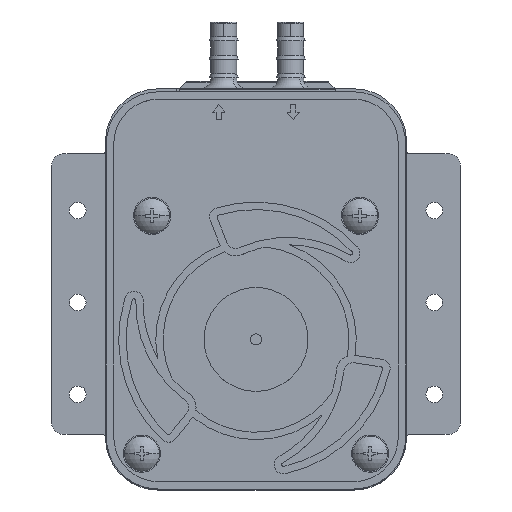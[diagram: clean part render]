
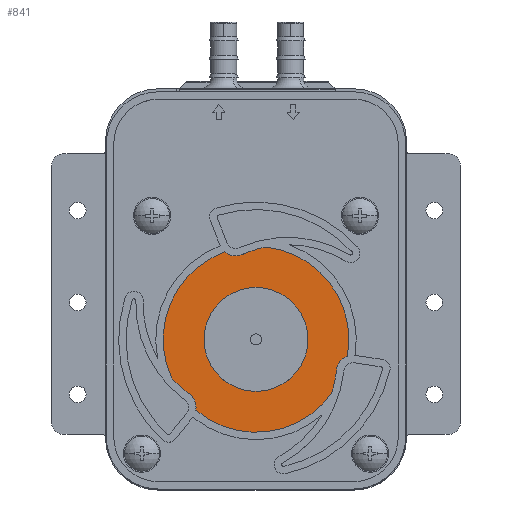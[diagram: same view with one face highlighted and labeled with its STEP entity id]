
A CAD part, top view. The second image highlights one B-rep face of the part: STEP entity #841.
In plain terms, the highlighted planar face has unit normal (0, 0, 1).
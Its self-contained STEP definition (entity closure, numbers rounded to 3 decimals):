
#24 = CARTESIAN_POINT ( 'NONE',  ( -3.667, 22.89, 2.5 ) ) ;
#452 = DIRECTION ( 'NONE',  ( 0., 0., -1. ) ) ;
#815 = ORIENTED_EDGE ( 'NONE', *, *, #14529, .T. ) ;
#841 = ADVANCED_FACE ( 'NONE', ( #4664, #19310 ), #19571, .T. ) ;
#975 = VERTEX_POINT ( 'NONE', #1214 ) ;
#1038 = ORIENTED_EDGE ( 'NONE', *, *, #11357, .F. ) ;
#1059 = CARTESIAN_POINT ( 'NONE',  ( 2.499, 24.875, 2.5 ) ) ;
#1214 = CARTESIAN_POINT ( 'NONE',  ( 24.584, -4.542, 2.5 ) ) ;
#1315 = EDGE_LOOP ( 'NONE', ( #14562, #18072, #5414, #815, #9471, #18938, #11153, #17866, #24906 ) ) ;
#1531 = CARTESIAN_POINT ( 'NONE',  ( -14., 0., 2.5 ) ) ;
#1588 = CIRCLE ( 'NONE', #8202, 30. ) ;
#1899 = CARTESIAN_POINT ( 'NONE',  ( 21.68, -8.291, 2.5 ) ) ;
#2722 = DIRECTION ( 'NONE',  ( 0., 0., 1. ) ) ;
#3004 = CARTESIAN_POINT ( 'NONE',  ( 0., 0., 2.5 ) ) ;
#3193 = CIRCLE ( 'NONE', #19083, 25. ) ;
#3244 = DIRECTION ( 'NONE',  ( 0.202, -0.979, 0. ) ) ;
#3787 = CARTESIAN_POINT ( 'NONE',  ( 0., 0., 2.5 ) ) ;
#3853 = EDGE_CURVE ( 'NONE', #17485, #11730, #24194, .T. ) ;
#4664 = FACE_OUTER_BOUND ( 'NONE', #1315, .T. ) ;
#4977 = DIRECTION ( 'NONE',  ( -0.983, 0.182, 0. ) ) ;
#5074 = AXIS2_PLACEMENT_3D ( 'NONE', #14415, #23974, #20135 ) ;
#5138 = AXIS2_PLACEMENT_3D ( 'NONE', #3004, #2722, #23841 ) ;
#5218 = AXIS2_PLACEMENT_3D ( 'NONE', #24951, #6558, #6816 ) ;
#5270 = CARTESIAN_POINT ( 'NONE',  ( -20.64, -18.294, 2.5 ) ) ;
#5414 = ORIENTED_EDGE ( 'NONE', *, *, #19760, .T. ) ;
#5612 = AXIS2_PLACEMENT_3D ( 'NONE', #5270, #18115, #13693 ) ;
#5712 = VERTEX_POINT ( 'NONE', #1899 ) ;
#6228 = DIRECTION ( 'NONE',  ( 0., 0., 1. ) ) ;
#6558 = DIRECTION ( 'NONE',  ( 0., 0., 1. ) ) ;
#6815 = VERTEX_POINT ( 'NONE', #1531 ) ;
#6816 = DIRECTION ( 'NONE',  ( -0.95, 0.312, 0. ) ) ;
#6850 = VERTEX_POINT ( 'NONE', #22791 ) ;
#7005 = CARTESIAN_POINT ( 'NONE',  ( 0., 13.2, 2.5 ) ) ;
#7406 = EDGE_CURVE ( 'NONE', #16866, #5712, #18003, .T. ) ;
#7919 = VERTEX_POINT ( 'NONE', #17015 ) ;
#8193 = CARTESIAN_POINT ( 'NONE',  ( 14., 0., 2.5 ) ) ;
#8202 = AXIS2_PLACEMENT_3D ( 'NONE', #16184, #24856, #9705 ) ;
#8310 = CARTESIAN_POINT ( 'NONE',  ( 8.553, -4.508, 2.5 ) ) ;
#9093 = EDGE_CURVE ( 'NONE', #975, #20606, #3193, .T. ) ;
#9143 = EDGE_CURVE ( 'NONE', #5712, #975, #12022, .T. ) ;
#9272 = CARTESIAN_POINT ( 'NONE',  ( 0., 0., 2.5 ) ) ;
#9471 = ORIENTED_EDGE ( 'NONE', *, *, #20521, .T. ) ;
#9705 = DIRECTION ( 'NONE',  ( 0.746, 0.666, 0. ) ) ;
#10038 = CARTESIAN_POINT ( 'NONE',  ( -5.5, 27., 2.5 ) ) ;
#10672 = VERTEX_POINT ( 'NONE', #8193 ) ;
#11153 = ORIENTED_EDGE ( 'NONE', *, *, #9143, .T. ) ;
#11357 = EDGE_CURVE ( 'NONE', #6815, #10672, #24448, .T. ) ;
#11414 = AXIS2_PLACEMENT_3D ( 'NONE', #8310, #6228, #3244 ) ;
#11730 = VERTEX_POINT ( 'NONE', #24745 ) ;
#12022 = CIRCLE ( 'NONE', #22164, 4.5 ) ;
#12193 = ORIENTED_EDGE ( 'NONE', *, *, #18164, .F. ) ;
#12243 = DIRECTION ( 'NONE',  ( -0.642, -0.767, 0. ) ) ;
#12306 = AXIS2_PLACEMENT_3D ( 'NONE', #10038, #18467, #12243 ) ;
#12342 = CARTESIAN_POINT ( 'NONE',  ( 20.348, -14.524, 2.5 ) ) ;
#13275 = DIRECTION ( 'NONE',  ( 0., 0., 1. ) ) ;
#13693 = DIRECTION ( 'NONE',  ( 0.986, -0.166, 0. ) ) ;
#14415 = CARTESIAN_POINT ( 'NONE',  ( 0., 0., 2.5 ) ) ;
#14529 = EDGE_CURVE ( 'NONE', #7919, #6850, #21930, .T. ) ;
#14562 = ORIENTED_EDGE ( 'NONE', *, *, #3853, .T. ) ;
#15692 = DIRECTION ( 'NONE',  ( 0., 0., 1. ) ) ;
#15727 = CIRCLE ( 'NONE', #5138, 25. ) ;
#16184 = CARTESIAN_POINT ( 'NONE',  ( -0.38, 9.631, 2.5 ) ) ;
#16218 = CARTESIAN_POINT ( 'NONE',  ( -22.756, -10.351, 2.5 ) ) ;
#16733 = CIRCLE ( 'NONE', #11414, 30. ) ;
#16866 = VERTEX_POINT ( 'NONE', #12342 ) ;
#17015 = CARTESIAN_POINT ( 'NONE',  ( -17.997, -14.651, 2.5 ) ) ;
#17485 = VERTEX_POINT ( 'NONE', #24 ) ;
#17556 = DIRECTION ( 'NONE',  ( -0.349, 0.937, 0. ) ) ;
#17866 = ORIENTED_EDGE ( 'NONE', *, *, #9093, .T. ) ;
#18003 = CIRCLE ( 'NONE', #5218, 30. ) ;
#18072 = ORIENTED_EDGE ( 'NONE', *, *, #27256, .T. ) ;
#18115 = DIRECTION ( 'NONE',  ( 0., 0., -1. ) ) ;
#18164 = EDGE_CURVE ( 'NONE', #10672, #6815, #19843, .T. ) ;
#18288 = AXIS2_PLACEMENT_3D ( 'NONE', #19977, #15692, #22476 ) ;
#18467 = DIRECTION ( 'NONE',  ( 0., 0., -1. ) ) ;
#18558 = DIRECTION ( 'NONE',  ( -1., 0., 0. ) ) ;
#18938 = ORIENTED_EDGE ( 'NONE', *, *, #7406, .T. ) ;
#19083 = AXIS2_PLACEMENT_3D ( 'NONE', #9272, #13275, #4977 ) ;
#19161 = AXIS2_PLACEMENT_3D ( 'NONE', #7005, #25920, #21518 ) ;
#19310 = FACE_BOUND ( 'NONE', #19521, .T. ) ;
#19432 = VERTEX_POINT ( 'NONE', #16218 ) ;
#19521 = EDGE_LOOP ( 'NONE', ( #1038, #12193 ) ) ;
#19571 = PLANE ( 'NONE',  #19161 ) ;
#19760 = EDGE_CURVE ( 'NONE', #19432, #7919, #1588, .T. ) ;
#19843 = CIRCLE ( 'NONE', #22529, 14. ) ;
#19977 = CARTESIAN_POINT ( 'NONE',  ( 0., 0., 2.5 ) ) ;
#20098 = CIRCLE ( 'NONE', #5074, 25. ) ;
#20135 = DIRECTION ( 'NONE',  ( 0.336, -0.942, 0. ) ) ;
#20521 = EDGE_CURVE ( 'NONE', #6850, #16866, #15727, .T. ) ;
#20606 = VERTEX_POINT ( 'NONE', #1059 ) ;
#21518 = DIRECTION ( 'NONE',  ( 0.707, 0.707, 0. ) ) ;
#21930 = CIRCLE ( 'NONE', #5612, 4.5 ) ;
#22164 = AXIS2_PLACEMENT_3D ( 'NONE', #26103, #452, #17556 ) ;
#22476 = DIRECTION ( 'NONE',  ( -1., 0., 0. ) ) ;
#22529 = AXIS2_PLACEMENT_3D ( 'NONE', #3787, #23239, #18558 ) ;
#22791 = CARTESIAN_POINT ( 'NONE',  ( -16.202, -19.039, 2.5 ) ) ;
#23239 = DIRECTION ( 'NONE',  ( 0., 0., 1. ) ) ;
#23841 = DIRECTION ( 'NONE',  ( 0.648, 0.762, 0. ) ) ;
#23880 = EDGE_CURVE ( 'NONE', #20606, #17485, #16733, .T. ) ;
#23974 = DIRECTION ( 'NONE',  ( 0., 0., 1. ) ) ;
#24194 = CIRCLE ( 'NONE', #12306, 4.5 ) ;
#24448 = CIRCLE ( 'NONE', #18288, 14. ) ;
#24745 = CARTESIAN_POINT ( 'NONE',  ( -8.39, 23.55, 2.5 ) ) ;
#24856 = DIRECTION ( 'NONE',  ( 0., 0., 1. ) ) ;
#24906 = ORIENTED_EDGE ( 'NONE', *, *, #23880, .T. ) ;
#24951 = CARTESIAN_POINT ( 'NONE',  ( -8.158, -5.175, 2.5 ) ) ;
#25920 = DIRECTION ( 'NONE',  ( 0., 0., 1. ) ) ;
#26103 = CARTESIAN_POINT ( 'NONE',  ( 26.156, -8.758, 2.5 ) ) ;
#27256 = EDGE_CURVE ( 'NONE', #11730, #19432, #20098, .T. ) ;
